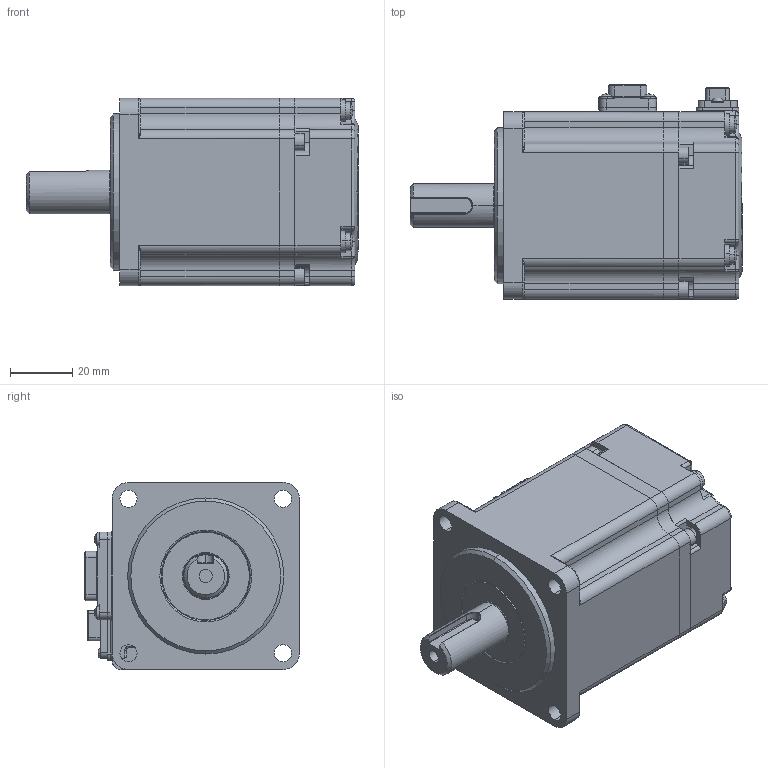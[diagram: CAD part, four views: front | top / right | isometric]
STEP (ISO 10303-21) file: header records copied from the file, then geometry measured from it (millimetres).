
FILE_DESCRIPTION(('FreeCAD Model'),'2;1');
FILE_NAME('Open CASCADE Shape Model','2025-03-17T12:23:53',('Author'),( ''),'Open CASCADE STEP processor 7.6','FreeCAD','Unknown');
FILE_SCHEMA(('AUTOMOTIVE_DESIGN { 1 0 10303 214 1 1 1 1 }'));
Length unit declared in the file: millimetre
Products named in the file (36): PSM6H-60CS30B3-20P2; PSM6H-60CS30B3-20P003; PSM6H-60CS30B3-20P004; PSM6H-60CS30B3-20P005; PSM6H-60CS30B3-20P006; PSM6H-60CS30B3-20P007; PSM6H-60CS30B3-20P008; PSM6H-60CS30B3-20P009; PSM6H-60CS30B3-20P010; PSM6H-60CS30B3-20P011; PSM6H-60CS30B3-20P037; PSM6H-60CS30B3-20P012; PSM6H-60CS30B3-20P013; PSM6H-60CS30B3-20P014; PSM6H-60CS30B3-20P015; PSM6H-60CS30B3-20P016; PSM6H-60CS30B3-20P017; PSM6H-60CS30B3-20P018; PSM6H-60CS30B3-20P019; PSM6H-60CS30B3-20P020; PSM6H-60CS30B3-20P021; PSM6H-60CS30B3-20P022; PSM6H-60CS30B3-20P023; PSM6H-60CS30B3-20P024; PSM6H-60CS30B3-20P025; PSM6H-60CS30B3-20P026; PSM6H-60CS30B3-20P027; PSM6H-60CS30B3-20P028; PSM6H-60CS30B3-20P029; PSM6H-60CS30B3-20P030; PSM6H-60CS30B3-20P031; PSM6H-60CS30B3-20P032; PSM6H-60CS30B3-20P033; PSM6H-60CS30B3-20P034; PSM6H-60CS30B3-20P035; PSM6H-60CS30B3-20P036
Assembly tree (35 placements, depth 2):
  PSM6H-60CS30B3-20P2
    PSM6H-60CS30B3-20P003
    PSM6H-60CS30B3-20P004
    PSM6H-60CS30B3-20P005
    PSM6H-60CS30B3-20P006
    PSM6H-60CS30B3-20P007
    PSM6H-60CS30B3-20P008
    PSM6H-60CS30B3-20P009
    PSM6H-60CS30B3-20P010
    PSM6H-60CS30B3-20P011
    PSM6H-60CS30B3-20P037
    PSM6H-60CS30B3-20P012
    PSM6H-60CS30B3-20P013
    PSM6H-60CS30B3-20P014
    PSM6H-60CS30B3-20P015
    PSM6H-60CS30B3-20P016
    PSM6H-60CS30B3-20P017
    PSM6H-60CS30B3-20P018
    PSM6H-60CS30B3-20P019
    PSM6H-60CS30B3-20P020
    PSM6H-60CS30B3-20P021
    PSM6H-60CS30B3-20P022
    PSM6H-60CS30B3-20P023
    PSM6H-60CS30B3-20P024
    PSM6H-60CS30B3-20P025
    PSM6H-60CS30B3-20P026
    PSM6H-60CS30B3-20P027
    PSM6H-60CS30B3-20P028
    PSM6H-60CS30B3-20P029
    PSM6H-60CS30B3-20P030
    PSM6H-60CS30B3-20P031
    PSM6H-60CS30B3-20P032
    PSM6H-60CS30B3-20P033
    PSM6H-60CS30B3-20P034
    PSM6H-60CS30B3-20P035
    PSM6H-60CS30B3-20P036
Bounding box: 106.4 x 68.8 x 60 mm (x, y, z)
Surface area: 32421 mm2 (no closed solid volume)
Topology: 0 solids, 35 shells, 775 faces, 2507 edges, 1737 vertices
Faces by surface type: plane 386, cylinder 255, torus 62, sphere 24, cone 22, bspline 22, revolution 4
Entity records: 29645 total; most frequent: CARTESIAN_POINT 6503, DIRECTION 4931, ORIENTED_EDGE 4125, EDGE_CURVE 2491, VERTEX_POINT 1737, AXIS2_PLACEMENT_3D 1733, LINE 1461, VECTOR 1461
